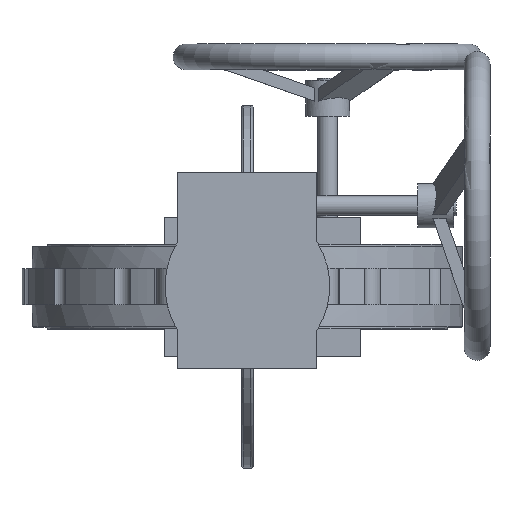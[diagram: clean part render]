
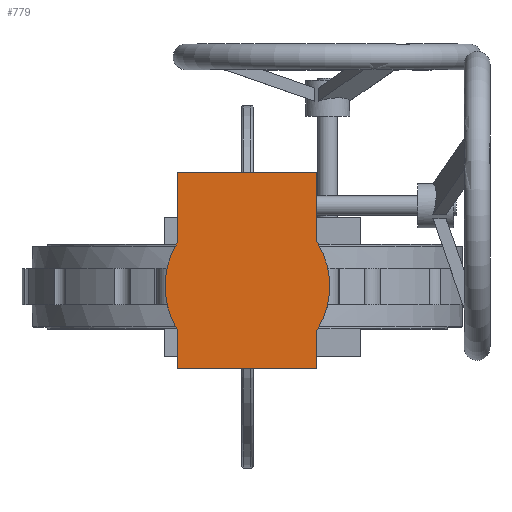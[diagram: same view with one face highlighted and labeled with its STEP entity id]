
A CAD part, top view. The second image highlights one B-rep face of the part: STEP entity #779.
In plain terms, the highlighted planar face has unit normal (0, 0, 1) as drawn and (0, 0, -1) by its records, which use the part's own axes.
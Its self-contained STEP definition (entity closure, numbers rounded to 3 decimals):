
#779 = ADVANCED_FACE( '', ( #1631 ), #1632, .F. );
#1631 = FACE_OUTER_BOUND( '', #3873, .T. );
#1632 = PLANE( '', #3874 );
#3873 = EDGE_LOOP( '', ( #6607, #6608, #6609, #6610, #6611, #6612, #6613, #6614 ) );
#3874 = AXIS2_PLACEMENT_3D( '', #6615, #6616, #6617 );
#6607 = ORIENTED_EDGE( '', *, *, #7583, .F. );
#6608 = ORIENTED_EDGE( '', *, *, #7588, .F. );
#6609 = ORIENTED_EDGE( '', *, *, #8198, .F. );
#6610 = ORIENTED_EDGE( '', *, *, #7401, .F. );
#6611 = ORIENTED_EDGE( '', *, *, #7635, .F. );
#6612 = ORIENTED_EDGE( '', *, *, #7661, .F. );
#6613 = ORIENTED_EDGE( '', *, *, #7624, .F. );
#6614 = ORIENTED_EDGE( '', *, *, #8023, .F. );
#6615 = CARTESIAN_POINT( '', ( 0., 0., 0. ) );
#6616 = DIRECTION( '', ( 0., 0., 1. ) );
#6617 = DIRECTION( '', ( 1., 0., 0. ) );
#7401 = EDGE_CURVE( '', #8508, #8510, #8511, .T. );
#7583 = EDGE_CURVE( '', #8825, #8827, #8828, .T. );
#7588 = EDGE_CURVE( '', #8833, #8825, #8835, .T. );
#7624 = EDGE_CURVE( '', #8893, #8895, #8896, .T. );
#7635 = EDGE_CURVE( '', #8912, #8508, #8914, .T. );
#7661 = EDGE_CURVE( '', #8895, #8912, #8954, .T. );
#8023 = EDGE_CURVE( '', #8827, #8893, #9519, .T. );
#8198 = EDGE_CURVE( '', #8510, #8833, #9748, .T. );
#8508 = VERTEX_POINT( '', #10421 );
#8510 = VERTEX_POINT( '', #10424 );
#8511 = LINE( '', #10425, #10426 );
#8825 = VERTEX_POINT( '', #11424 );
#8827 = VERTEX_POINT( '', #11427 );
#8828 = CIRCLE( '', #11428, 80. );
#8833 = VERTEX_POINT( '', #11435 );
#8835 = LINE( '', #11438, #11439 );
#8893 = VERTEX_POINT( '', #11753 );
#8895 = VERTEX_POINT( '', #11756 );
#8896 = LINE( '', #11757, #11758 );
#8912 = VERTEX_POINT( '', #11777 );
#8914 = CIRCLE( '', #11780, 80. );
#8954 = LINE( '', #12097, #12098 );
#9519 = LINE( '', #14594, #14595 );
#9748 = LINE( '', #15693, #15694 );
#10421 = CARTESIAN_POINT( '', ( -42.939, 67.5, 0. ) );
#10424 = CARTESIAN_POINT( '', ( -80., 67.5, 0. ) );
#10425 = CARTESIAN_POINT( '', ( -42.939, 67.5, 0. ) );
#10426 = VECTOR( '', #16675, 1000. );
#11424 = CARTESIAN_POINT( '', ( -42.939, -67.5, 0. ) );
#11427 = CARTESIAN_POINT( '', ( 42.939, -67.5, 0. ) );
#11428 = AXIS2_PLACEMENT_3D( '', #16913, #16914, #16915 );
#11435 = CARTESIAN_POINT( '', ( -80., -67.5, 0. ) );
#11438 = CARTESIAN_POINT( '', ( -80., -67.5, 0. ) );
#11439 = VECTOR( '', #16919, 1000. );
#11753 = CARTESIAN_POINT( '', ( 110., -67.5, 0. ) );
#11756 = CARTESIAN_POINT( '', ( 110., 67.5, 0. ) );
#11757 = CARTESIAN_POINT( '', ( 110., -67.5, 0. ) );
#11758 = VECTOR( '', #16957, 1000. );
#11777 = CARTESIAN_POINT( '', ( 42.939, 67.5, 0. ) );
#11780 = AXIS2_PLACEMENT_3D( '', #16974, #16975, #16976 );
#12097 = CARTESIAN_POINT( '', ( 110., 67.5, 0. ) );
#12098 = VECTOR( '', #16992, 1000. );
#14594 = CARTESIAN_POINT( '', ( 42.939, -67.5, 0. ) );
#14595 = VECTOR( '', #17404, 1000. );
#15693 = CARTESIAN_POINT( '', ( -80., 67.5, 0. ) );
#15694 = VECTOR( '', #17539, 1000. );
#16675 = DIRECTION( '', ( -1., 0., 0. ) );
#16913 = CARTESIAN_POINT( '', ( 0., 0., 0. ) );
#16914 = DIRECTION( '', ( 0., 0., 1. ) );
#16915 = DIRECTION( '', ( 1., 0., 0. ) );
#16919 = DIRECTION( '', ( 1., 0., 0. ) );
#16957 = DIRECTION( '', ( 0., 1., 0. ) );
#16974 = CARTESIAN_POINT( '', ( 0., 0., 0. ) );
#16975 = DIRECTION( '', ( 0., 0., 1. ) );
#16976 = DIRECTION( '', ( 1., 0., 0. ) );
#16992 = DIRECTION( '', ( -1., 0., 0. ) );
#17404 = DIRECTION( '', ( 1., 0., 0. ) );
#17539 = DIRECTION( '', ( 0., -1., 0. ) );
